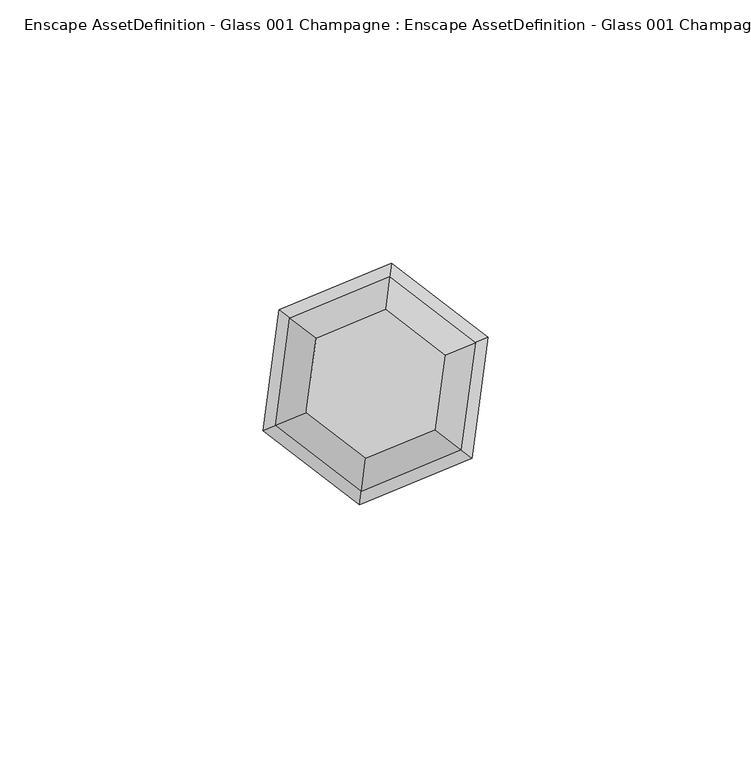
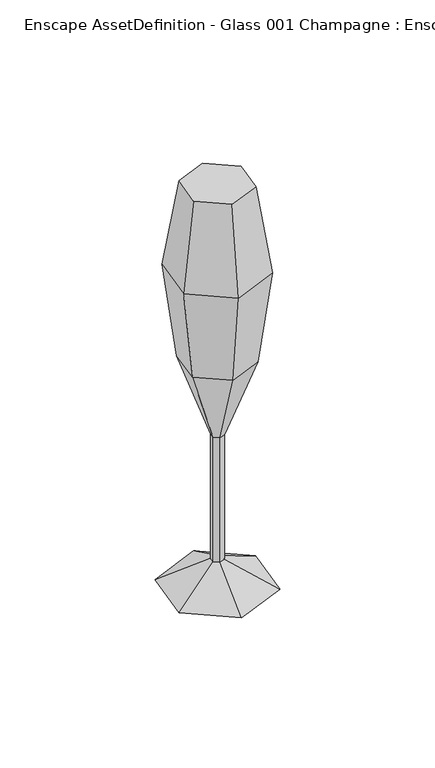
"""IFC4 building model written with IfcOpenShell, lengths in millimetres: geographic element geometry, Enscape AssetDefinition - Glass 001 Champagne : Enscape AssetDefinition - Glass 001 Champagne."""

import ifcopenshell
import ifcopenshell.guid

model = None  # the IFC model being written
_history = None  # IfcOwnerHistory: only IFC2X3 demands one
_inside = {}  # id of a spatial element -> (the spatial element, [elements in it])
_under = {}  # id of a project, library or spatial element -> (it, [spatial elements below it])
_declared = {}  # id of a project -> (the project, [libraries it declares])
_typed = {}  # id of a type object -> (the type object, [elements of that type])
_made_of = {}  # id of a material, layer set ... -> (it, [elements and type objects made of it])


def new_model(schema):
    """Start an empty IFC model of exactly this schema.

    Asked for "IFC4X3", IfcOpenShell would pick the latest addendum, in which some entities
    have other attributes; the version numbers below select the first issue.
    IFC2X3 requires an IfcOwnerHistory on every rooted entity: one is made here for all.
    """
    global model, _history
    if schema == "IFC4X3":
        model = ifcopenshell.file(schema_version=(4, 3, 0, 0))
    else:
        model = ifcopenshell.file(schema=schema)
    _inside.clear()
    _under.clear()
    _declared.clear()
    _typed.clear()
    _made_of.clear()
    _history = None
    if model.schema == "IFC2X3":
        org = make("IfcOrganization", Name="unknown")
        user = make(
            "IfcPersonAndOrganization",
            ThePerson=make("IfcPerson", FamilyName="unknown"),
            TheOrganization=org,
        )
        app = make(
            "IfcApplication",
            ApplicationDeveloper=org,
            Version="unknown",
            ApplicationFullName="unknown",
            ApplicationIdentifier="unknown",
        )
        _history = make(
            "IfcOwnerHistory",
            OwningUser=user,
            OwningApplication=app,
            ChangeAction="ADDED",
            CreationDate=0,
        )
    return model


def make(cls, **values):
    """One entity of the class cls with the attributes given. An attribute that is None is left unset."""
    return model.create_entity(
        cls, **{name: value for name, value in values.items() if value is not None}
    )


def rooted(cls, **values):
    """An entity with a GlobalId (a new one), such as an element, a storey or a relation."""
    return make(cls, GlobalId=ifcopenshell.guid.new(), OwnerHistory=_history, **values)


def si_unit(unit_type, name, prefix=None):
    """IfcSIUnit, for example si_unit("LENGTHUNIT", "METRE", prefix="MILLI")."""
    return make("IfcSIUnit", UnitType=unit_type, Prefix=prefix, Name=name)


def assignment(units):
    """IfcUnitAssignment: the units of a project."""
    return None if units is None else make("IfcUnitAssignment", Units=units)


def point(xyz):
    """IfcCartesianPoint."""
    return None if xyz is None else make("IfcCartesianPoint", Coordinates=xyz)


def direction(xyz):
    """IfcDirection."""
    return None if xyz is None else make("IfcDirection", DirectionRatios=xyz)


def frame(location, z_axis=None, x_axis=None):
    """IfcAxis2Placement3D, a coordinate frame: its origin and axes. An axis left out is left unset."""
    return make(
        "IfcAxis2Placement3D",
        Location=point(location),
        Axis=direction(z_axis),
        RefDirection=direction(x_axis),
    )


def origin():
    """The frame at (0, 0, 0) with its axes left unset."""
    return frame((0.0, 0.0, 0.0))


def place(relative_to, where):
    """IfcLocalPlacement: puts the frame where relative to a parent placement (None: the world)."""
    return make(
        "IfcLocalPlacement", PlacementRelTo=relative_to, RelativePlacement=where
    )


def context(
    kind, dimensions, precision=None, world=None, true_north=None, identifier=None
):
    """IfcGeometricRepresentationContext, for example the 3D "Model" context."""
    return make(
        "IfcGeometricRepresentationContext",
        ContextIdentifier=identifier,
        ContextType=kind,
        CoordinateSpaceDimension=dimensions,
        Precision=precision,
        WorldCoordinateSystem=world,
        TrueNorth=true_north,
    )


def project(units=None, contexts=None):
    """IfcProject with its units and contexts."""
    return rooted(
        "IfcProject",
        Name="project",
        RepresentationContexts=contexts,
        UnitsInContext=assignment(units),
    )


def spatial(cls, under=None, at=None, **own):
    """A site, building, storey or space (cls), placed at a placement, below another one or the project."""
    s = rooted(cls, ObjectPlacement=at, **own)
    if under is not None:
        _under.setdefault(under.id(), (under, []))[1].append(s)
    return s


def point_list(points):
    """IfcCartesianPointList2D or 3D."""
    cls = (
        "IfcCartesianPointList2D" if len(points[0]) == 2 else "IfcCartesianPointList3D"
    )
    return make(cls, CoordList=points)


def triangles(points, corners, closed=None, point_numbers=None):
    """IfcTriangulatedFaceSet: each triangle names its three corners, points numbered from 1."""
    return make(
        "IfcTriangulatedFaceSet",
        Coordinates=point_list(points),
        Closed=closed,
        CoordIndex=corners,
        PnIndex=point_numbers,
    )


def shape(context_of_items, identifier, shape_type, items):
    """IfcShapeRepresentation: the items that make up one representation, for example the "Body"."""
    return make(
        "IfcShapeRepresentation",
        ContextOfItems=context_of_items,
        RepresentationIdentifier=identifier,
        RepresentationType=shape_type,
        Items=items,
    )


def source(mapping_origin, context_of_items, identifier, shape_type, items):
    """IfcRepresentationMap: a shape defined once, which mapped items show again and again."""
    return make(
        "IfcRepresentationMap",
        MappingOrigin=mapping_origin,
        MappedRepresentation=shape(context_of_items, identifier, shape_type, items),
    )


def transform(
    local_origin,
    x_axis=None,
    y_axis=None,
    z_axis=None,
    scale=None,
    scale2=None,
    scale3=None,
    uniform=True,
):
    """IfcCartesianTransformationOperator3D, or its non-uniform kind. x_axis, y_axis, z_axis: its Axis1, 2, 3."""
    if uniform:
        return make(
            "IfcCartesianTransformationOperator3D",
            Axis1=direction(x_axis),
            Axis2=direction(y_axis),
            LocalOrigin=point(local_origin),
            Scale=scale,
            Axis3=direction(z_axis),
        )
    return make(
        "IfcCartesianTransformationOperator3DnonUniform",
        Axis1=direction(x_axis),
        Axis2=direction(y_axis),
        LocalOrigin=point(local_origin),
        Scale=scale,
        Axis3=direction(z_axis),
        Scale2=scale2,
        Scale3=scale3,
    )


def mapped(mapping_source, mapping_target):
    """IfcMappedItem: shows the shape of a source again, moved by a transform."""
    return make(
        "IfcMappedItem", MappingSource=mapping_source, MappingTarget=mapping_target
    )


def made_of(thing, what):
    """Note that an element or type object is made of a material, layer set ...; save() writes the relation."""
    if what is not None:
        _made_of.setdefault(what.id(), (what, []))[1].append(thing)
    return thing


def element(
    cls,
    number,
    at=None,
    inside=None,
    cuts=None,
    type_object=None,
    material=None,
    context=None,
    identifier="Body",
    shape_type=None,
    held_by="IfcProductDefinitionShape",
    body=None,
    shapes=None,
    **own,
):
    """One element of the class cls, such as IfcWall. Its Tag is "e" and its number.

    at: its placement. inside: the storey or other place that contains it. cuts: it is an
    opening in that element (IfcRelVoidsElement). A single representation is given by context,
    identifier, shape_type and body (its items); several are given by shapes. held_by: the class
    of the entity that holds the representations. save() writes the other relations.
    """
    e = rooted(cls, Tag="e%d" % number, ObjectPlacement=at, **own)
    if body is not None:
        shapes = [shape(context, identifier, shape_type, body)]
    if shapes is not None:
        e.Representation = make(held_by, Representations=shapes)
    if inside is not None:
        _inside.setdefault(inside.id(), (inside, []))[1].append(e)
    if cuts is not None:
        rooted(
            "IfcRelVoidsElement", RelatingBuildingElement=cuts, RelatedOpeningElement=e
        )
    if type_object is not None:
        _typed.setdefault(type_object.id(), (type_object, []))[1].append(e)
    return made_of(e, material)


def aggregate(whole, parts):
    """IfcRelAggregates: a whole, such as a stair, and the parts it consists of."""
    return rooted("IfcRelAggregates", RelatingObject=whole, RelatedObjects=parts)


def save(model, path):
    """Write the relations noted so far, then the file.

    IfcRelAggregates (storeys below a building ...), IfcRelContainedInSpatialStructure (elements
    in a storey), IfcRelDefinesByType, IfcRelAssociatesMaterial and IfcRelDeclares: one each for
    every whole, place, type object, material and project.
    """
    for whole, parts in _under.values():
        aggregate(whole, parts)
    for where, things in _inside.values():
        rooted(
            "IfcRelContainedInSpatialStructure",
            RelatedElements=things,
            RelatingStructure=where,
        )
    for kind, things in _typed.values():
        rooted("IfcRelDefinesByType", RelatedObjects=things, RelatingType=kind)
    for what, things in _made_of.values():
        rooted("IfcRelAssociatesMaterial", RelatedObjects=things, RelatingMaterial=what)
    for by, libraries in _declared.values():
        rooted("IfcRelDeclares", RelatingContext=by, RelatedDefinitions=libraries)
    model.write(path)


def enscape_assetdefinition_glass_001_champagne_enscape_18e854bc(model_context):
    return source(origin(), model_context, "Body", "Tessellation", [
        triangles([(21.3958143, 8.8620948, 0.0), (18.3728838, -14.0977814, 0.0), (-2.0531198, 1.5760576, 11.5334564), (3.0229305, 22.9607987, 0.0), (2.391769, 0.9901111, 11.5334564), (0.3377267, 2.566169, 11.5334564), (0.3377267, 2.566169, 67.3616995), (-18.3728838, 14.0977814, 0.0), (-3.0229305, -22.9607987, 0.0), (-21.3958143, -8.8620948, 0.0), (-2.391769, -0.9901111, 11.5334564), (-13.9759774, -5.7893359, 101.3189065), (-1.9746859, -14.9974619, 101.3189065), (-2.391769, -0.9901111, 67.3616995), (-12.0012921, 9.2090491, 101.3189065), (-2.0531198, 1.5760576, 67.3616995), (-2.6805896, -20.3586433, 141.7695261), (2.0531198, -1.5760576, 67.3616995), (-0.3377267, -2.566169, 11.5334564), (-0.3377267, -2.566169, 67.3616995), (12.0012921, -9.2090491, 101.3189065), (16.2911579, -12.5004997, 141.7695261), (11.3396796, -8.7015367, 179.8191476), (13.2054803, 5.4700643, 179.8191476), (-1.8658012, -14.1716005, 179.8191476), (-11.3396796, 8.7015367, 179.8191476), (13.9759774, 5.7893359, 101.3189065), (18.9717492, 7.8581425, 141.7695261), (1.8658012, 14.1716005, 179.8191476), (-16.2911579, 12.5004997, 141.7695261), (-13.2054803, -5.4700643, 179.8191476), (-18.9717492, -7.8581425, 141.7695261), (1.9746859, 14.9974619, 101.3189065), (2.6805896, 20.3586433, 141.7695261), (2.391769, 0.9901111, 67.3616995), (2.0531198, -1.5760576, 11.5334564)], [[5, 36, 2], [36, 19, 9], [9, 2, 36], [19, 36, 18], [35, 18, 36], [36, 5, 35], [7, 35, 5], [18, 35, 27], [15, 33, 7], [33, 27, 35], [35, 7, 33], [27, 33, 34], [32, 30, 15], [30, 34, 33], [33, 15, 30], [30, 32, 31], [25, 31, 32], [26, 31, 25], [31, 26, 30], [34, 30, 26], [26, 29, 34], [28, 34, 29], [34, 28, 27], [26, 25, 24], [29, 26, 24], [29, 24, 28], [25, 23, 24], [23, 25, 17], [32, 17, 25], [22, 28, 24], [24, 23, 22], [17, 22, 23], [28, 22, 21], [21, 27, 28], [27, 21, 18], [20, 18, 21], [18, 20, 19], [22, 17, 13], [13, 21, 22], [21, 13, 20], [17, 32, 12], [12, 13, 17], [15, 12, 32], [12, 15, 16], [7, 16, 15], [13, 12, 14], [14, 20, 13], [16, 14, 12], [20, 14, 11], [11, 19, 20], [2, 9, 10], [19, 11, 10], [10, 9, 19], [8, 10, 11], [14, 16, 3], [3, 11, 14], [11, 3, 8], [16, 7, 6], [6, 3, 16], [5, 6, 7], [2, 10, 4], [10, 8, 4], [3, 6, 4], [4, 8, 3], [1, 2, 4], [2, 1, 5], [6, 5, 1], [1, 4, 6]]),
    ])


if __name__ == "__main__":
    model = new_model("IFC4")
    model_context = context("Model", 3, world=origin())
    ifc_project = project(units=[si_unit("LENGTHUNIT", "METRE", prefix="MILLI")], contexts=[model_context])
    site = spatial("IfcSite", under=ifc_project)
    building = spatial("IfcBuilding", under=site)
    placement = place(None, origin())
    enscape_assetdefinition_glass_001_champagne_enscape_shape = enscape_assetdefinition_glass_001_champagne_enscape_18e854bc(model_context)
    element("IfcGeographicElement", 1, ObjectType="Enscape AssetDefinition - Glass 001 Champagne : Enscape AssetDefinition - Glass 001 Champagne", at=placement, inside=building, context=model_context, shape_type="MappedRepresentation", body=[
        mapped(enscape_assetdefinition_glass_001_champagne_enscape_shape, transform((0.0, 0.0, 0.0), x_axis=(1.0, 0.0, 0.0), y_axis=(0.0, 1.0, 0.0), z_axis=(0.0, 0.0, 1.0))),
    ])
    save(model, "model.ifc")
